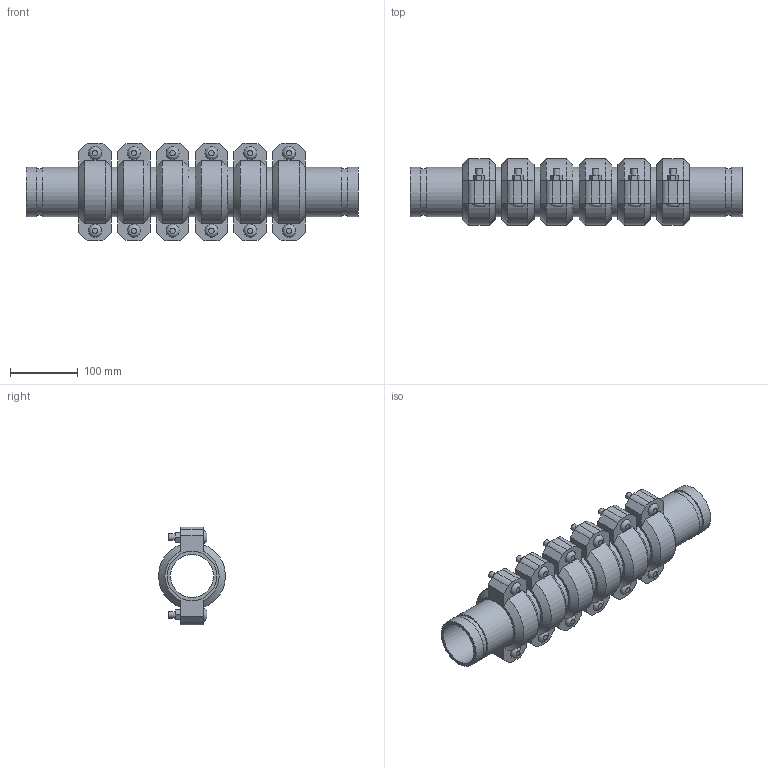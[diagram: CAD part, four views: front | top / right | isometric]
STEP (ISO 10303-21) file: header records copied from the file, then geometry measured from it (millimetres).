
FILE_DESCRIPTION(/* description */ ('VIC EXPANSION JOINT 6 COUPLINGS COMPRESSED STYLE 155 (OGS)','CAx-IF Rec.Pracs.---Representation and Presentation of Product Manufacturing Information (PMI)---4.0---2014-10-13'),/* implementation_level */ '2;1');
FILE_NAME(/* name */ 'C:\Users\kkamble\AppData\Roaming\Autodesk\ApplicationPlugins\Victaulic.Temp\A354\Victaulic_IPS_Expansion Joint_Compressed_6 Couplings_Style 155 (OGS)_2.5 (65).stp',/* time_stamp */ '2021-06-27T00:31:35+02:00',/* author */ ('kkamble'),/* organization */ ('Victaulic'),/* preprocessor_version */ 'ST-DEVELOPER v17.2',/* originating_system */ 'Autodesk Inventor 2019',/* authorisation */ '');
FILE_SCHEMA (('AP242_MANAGED_MODEL_BASED_3D_ENGINEERING_MIM_LF { 1 0 10303 442 1 1 4 }'));
Length unit declared in the file: inch
Products named in the file (4): 155-02.5; Nipple-02.5; Nipple-02.5_1; 075-02.5
Assembly tree (13 placements, depth 2):
  155-02.5
    Nipple-02.5  x2
    Nipple-02.5_1  x5
    075-02.5  x6
Bounding box: 488.95 x 98.22 x 144.27 mm (x, y, z)
Volume: 1738978 mm3; surface area: 490921 mm2
Topology: 13 solids, 25 shells, 402 faces, 972 edges, 684 vertices
Faces by surface type: plane 246, cylinder 120, cone 24, bspline 12
Full cylindrical faces by diameter (mm): 9.525 x24, 11.43 x12, 63.475 x7, 69.088 x14, 73.025 x27
Entity records: 2723 total; most frequent: CARTESIAN_POINT 483, DIRECTION 451, ORIENTED_EDGE 374, EDGE_CURVE 187, AXIS2_PLACEMENT_3D 180, VERTEX_POINT 134, EDGE_LOOP 101, LINE 91
